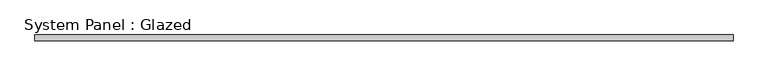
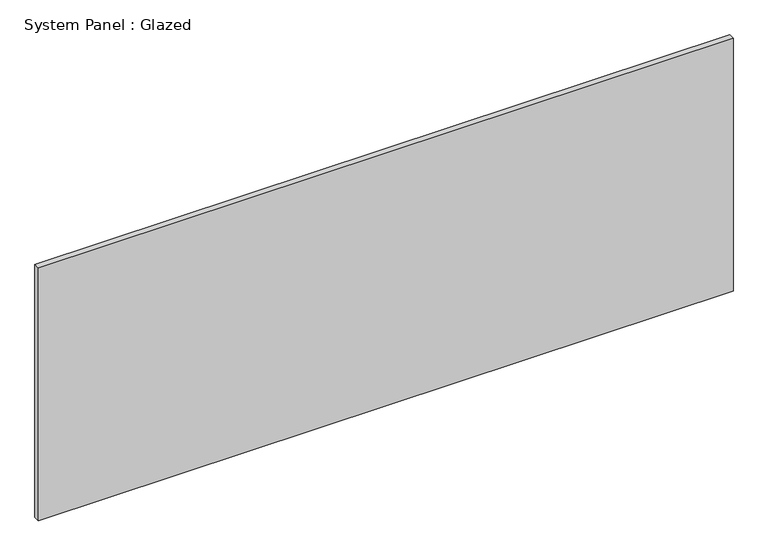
"""IFC4 building model written with IfcOpenShell, lengths in millimetres: plate geometry, System Panel : Glazed."""

from ifc_helpers import new_model, si_unit, origin, origin_with_axes, place, context, project, spatial, polyline, outline, extrude, source, transform, mapped, element, save


def system_panel_glazed_29e23e46(model_context):
    return source(origin(), model_context, "Body", "SweptSolid", [
        extrude(outline(polyline([(1462.5, 24.5), (-1462.5, 24.5), (-1462.5, 49.5), (1462.5, 49.5), (1462.5, 24.5)])), origin_with_axes(), (0.0, 0.0, 1.0), 1125.0),
    ])


if __name__ == "__main__":
    model = new_model("IFC4")
    model_context = context("Model", 3, world=origin())
    ifc_project = project(units=[si_unit("LENGTHUNIT", "METRE", prefix="MILLI")], contexts=[model_context])
    site = spatial("IfcSite", under=ifc_project)
    building = spatial("IfcBuilding", under=site)
    placement = place(None, origin())
    system_panel_glazed_shape = system_panel_glazed_29e23e46(model_context)
    element("IfcPlate", 1, ObjectType="System Panel : Glazed", at=placement, inside=building, context=model_context, shape_type="MappedRepresentation", body=[
        mapped(system_panel_glazed_shape, transform((0.0, 0.0, 0.0), x_axis=(1.0, 0.0, 0.0), y_axis=(0.0, 1.0, 0.0), z_axis=(0.0, 0.0, 1.0))),
    ])
    save(model, "model.ifc")
